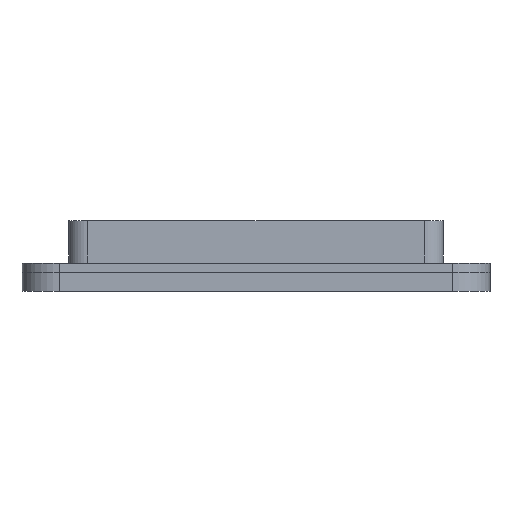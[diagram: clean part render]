
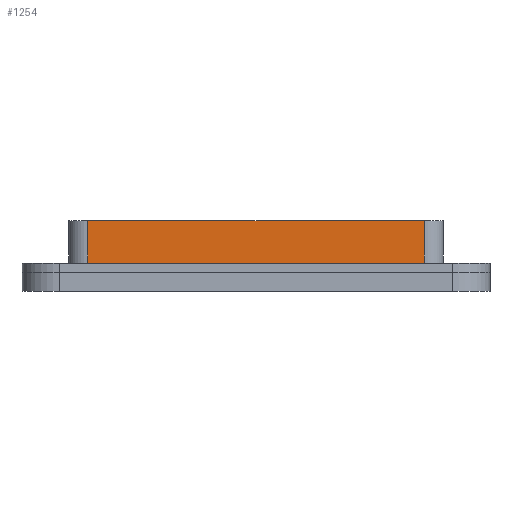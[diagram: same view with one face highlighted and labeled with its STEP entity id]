
A CAD part, left-side view. The second image highlights one B-rep face of the part: STEP entity #1254.
In plain terms, the highlighted planar face has unit normal (-1, 0, 0).
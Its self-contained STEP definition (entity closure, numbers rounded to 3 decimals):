
#32 = PLANE('',#33);
#33 = AXIS2_PLACEMENT_3D('',#34,#35,#36);
#34 = CARTESIAN_POINT('',(0.,0.,1.));
#35 = DIRECTION('',(-0.,-0.,-1.));
#36 = DIRECTION('',(-1.,0.,0.));
#186 = EDGE_CURVE('',#187,#189,#191,.T.);
#187 = VERTEX_POINT('',#188);
#188 = CARTESIAN_POINT('',(-20.,-18.,1.));
#189 = VERTEX_POINT('',#190);
#190 = CARTESIAN_POINT('',(-20.,18.,1.));
#191 = SURFACE_CURVE('',#192,(#196,#203),.PCURVE_S1.);
#192 = LINE('',#193,#194);
#193 = CARTESIAN_POINT('',(-20.,-18.,1.));
#194 = VECTOR('',#195,1.);
#195 = DIRECTION('',(0.,1.,0.));
#196 = PCURVE('',#32,#197);
#197 = DEFINITIONAL_REPRESENTATION('',(#198),#202);
#198 = LINE('',#199,#200);
#199 = CARTESIAN_POINT('',(20.,-18.));
#200 = VECTOR('',#201,1.);
#201 = DIRECTION('',(0.,1.));
#202 = ( GEOMETRIC_REPRESENTATION_CONTEXT(2) 
PARAMETRIC_REPRESENTATION_CONTEXT() REPRESENTATION_CONTEXT('2D SPACE',''
  ) );
#203 = PCURVE('',#204,#209);
#204 = PLANE('',#205);
#205 = AXIS2_PLACEMENT_3D('',#206,#207,#208);
#206 = CARTESIAN_POINT('',(-20.,-18.,1.));
#207 = DIRECTION('',(-1.,0.,0.));
#208 = DIRECTION('',(0.,1.,0.));
#209 = DEFINITIONAL_REPRESENTATION('',(#210),#214);
#210 = LINE('',#211,#212);
#211 = CARTESIAN_POINT('',(0.,0.));
#212 = VECTOR('',#213,1.);
#213 = DIRECTION('',(1.,0.));
#214 = ( GEOMETRIC_REPRESENTATION_CONTEXT(2) 
PARAMETRIC_REPRESENTATION_CONTEXT() REPRESENTATION_CONTEXT('2D SPACE',''
  ) );
#237 = CYLINDRICAL_SURFACE('',#238,2.);
#238 = AXIS2_PLACEMENT_3D('',#239,#240,#241);
#239 = CARTESIAN_POINT('',(-18.,18.,1.));
#240 = DIRECTION('',(-0.,-0.,-1.));
#241 = DIRECTION('',(1.,0.,0.));
#418 = CYLINDRICAL_SURFACE('',#419,2.);
#419 = AXIS2_PLACEMENT_3D('',#420,#421,#422);
#420 = CARTESIAN_POINT('',(-18.,-18.,1.));
#421 = DIRECTION('',(-0.,-0.,-1.));
#422 = DIRECTION('',(1.,0.,0.));
#1254 = ADVANCED_FACE('',(#1255),#204,.T.);
#1255 = FACE_BOUND('',#1256,.T.);
#1256 = EDGE_LOOP('',(#1257,#1280,#1308,#1329));
#1257 = ORIENTED_EDGE('',*,*,#1258,.T.);
#1258 = EDGE_CURVE('',#187,#1259,#1261,.T.);
#1259 = VERTEX_POINT('',#1260);
#1260 = CARTESIAN_POINT('',(-20.,-18.,5.5));
#1261 = SURFACE_CURVE('',#1262,(#1266,#1273),.PCURVE_S1.);
#1262 = LINE('',#1263,#1264);
#1263 = CARTESIAN_POINT('',(-20.,-18.,1.));
#1264 = VECTOR('',#1265,1.);
#1265 = DIRECTION('',(0.,0.,1.));
#1266 = PCURVE('',#204,#1267);
#1267 = DEFINITIONAL_REPRESENTATION('',(#1268),#1272);
#1268 = LINE('',#1269,#1270);
#1269 = CARTESIAN_POINT('',(0.,0.));
#1270 = VECTOR('',#1271,1.);
#1271 = DIRECTION('',(0.,-1.));
#1272 = ( GEOMETRIC_REPRESENTATION_CONTEXT(2) 
PARAMETRIC_REPRESENTATION_CONTEXT() REPRESENTATION_CONTEXT('2D SPACE',''
  ) );
#1273 = PCURVE('',#418,#1274);
#1274 = DEFINITIONAL_REPRESENTATION('',(#1275),#1279);
#1275 = LINE('',#1276,#1277);
#1276 = CARTESIAN_POINT('',(-3.142,0.));
#1277 = VECTOR('',#1278,1.);
#1278 = DIRECTION('',(-0.,-1.));
#1279 = ( GEOMETRIC_REPRESENTATION_CONTEXT(2) 
PARAMETRIC_REPRESENTATION_CONTEXT() REPRESENTATION_CONTEXT('2D SPACE',''
  ) );
#1280 = ORIENTED_EDGE('',*,*,#1281,.T.);
#1281 = EDGE_CURVE('',#1259,#1282,#1284,.T.);
#1282 = VERTEX_POINT('',#1283);
#1283 = CARTESIAN_POINT('',(-20.,18.,5.5));
#1284 = SURFACE_CURVE('',#1285,(#1289,#1296),.PCURVE_S1.);
#1285 = LINE('',#1286,#1287);
#1286 = CARTESIAN_POINT('',(-20.,-18.,5.5));
#1287 = VECTOR('',#1288,1.);
#1288 = DIRECTION('',(0.,1.,0.));
#1289 = PCURVE('',#204,#1290);
#1290 = DEFINITIONAL_REPRESENTATION('',(#1291),#1295);
#1291 = LINE('',#1292,#1293);
#1292 = CARTESIAN_POINT('',(0.,-4.5));
#1293 = VECTOR('',#1294,1.);
#1294 = DIRECTION('',(1.,0.));
#1295 = ( GEOMETRIC_REPRESENTATION_CONTEXT(2) 
PARAMETRIC_REPRESENTATION_CONTEXT() REPRESENTATION_CONTEXT('2D SPACE',''
  ) );
#1296 = PCURVE('',#1297,#1302);
#1297 = PLANE('',#1298);
#1298 = AXIS2_PLACEMENT_3D('',#1299,#1300,#1301);
#1299 = CARTESIAN_POINT('',(0.,0.,5.5));
#1300 = DIRECTION('',(-0.,-0.,-1.));
#1301 = DIRECTION('',(-1.,0.,0.));
#1302 = DEFINITIONAL_REPRESENTATION('',(#1303),#1307);
#1303 = LINE('',#1304,#1305);
#1304 = CARTESIAN_POINT('',(20.,-18.));
#1305 = VECTOR('',#1306,1.);
#1306 = DIRECTION('',(0.,1.));
#1307 = ( GEOMETRIC_REPRESENTATION_CONTEXT(2) 
PARAMETRIC_REPRESENTATION_CONTEXT() REPRESENTATION_CONTEXT('2D SPACE',''
  ) );
#1308 = ORIENTED_EDGE('',*,*,#1309,.F.);
#1309 = EDGE_CURVE('',#189,#1282,#1310,.T.);
#1310 = SURFACE_CURVE('',#1311,(#1315,#1322),.PCURVE_S1.);
#1311 = LINE('',#1312,#1313);
#1312 = CARTESIAN_POINT('',(-20.,18.,1.));
#1313 = VECTOR('',#1314,1.);
#1314 = DIRECTION('',(0.,0.,1.));
#1315 = PCURVE('',#204,#1316);
#1316 = DEFINITIONAL_REPRESENTATION('',(#1317),#1321);
#1317 = LINE('',#1318,#1319);
#1318 = CARTESIAN_POINT('',(36.,0.));
#1319 = VECTOR('',#1320,1.);
#1320 = DIRECTION('',(0.,-1.));
#1321 = ( GEOMETRIC_REPRESENTATION_CONTEXT(2) 
PARAMETRIC_REPRESENTATION_CONTEXT() REPRESENTATION_CONTEXT('2D SPACE',''
  ) );
#1322 = PCURVE('',#237,#1323);
#1323 = DEFINITIONAL_REPRESENTATION('',(#1324),#1328);
#1324 = LINE('',#1325,#1326);
#1325 = CARTESIAN_POINT('',(-3.142,0.));
#1326 = VECTOR('',#1327,1.);
#1327 = DIRECTION('',(-0.,-1.));
#1328 = ( GEOMETRIC_REPRESENTATION_CONTEXT(2) 
PARAMETRIC_REPRESENTATION_CONTEXT() REPRESENTATION_CONTEXT('2D SPACE',''
  ) );
#1329 = ORIENTED_EDGE('',*,*,#186,.F.);
